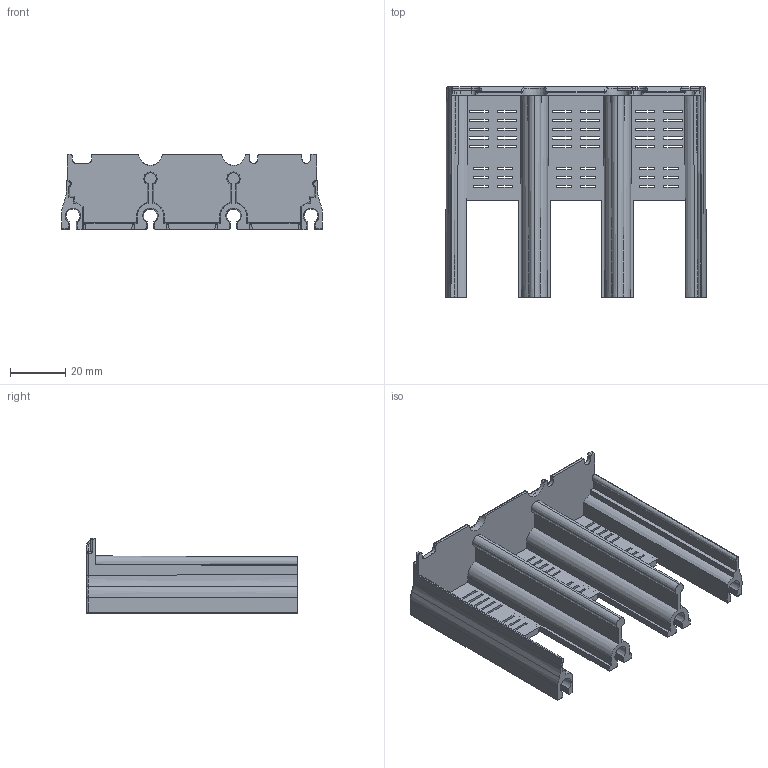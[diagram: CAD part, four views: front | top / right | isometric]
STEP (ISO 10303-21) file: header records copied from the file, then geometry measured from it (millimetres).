
FILE_DESCRIPTION (( 'STEP AP203' ), '1' );
FILE_NAME ('M5-160-3P-傷赽欶.STEP', '2024-09-20T08:22:01', ( 'A' ), ( '' ), 'SwSTEP 2.0', 'SolidWorks 2018', '' );
FILE_SCHEMA (( 'CONFIG_CONTROL_DESIGN' ));
Length unit declared in the file: millimetre
Products named in the file (1): M5-160-3P-傷赽欶車__“___
Bounding box: 94.16 x 76 x 27.3 mm (x, y, z)
Volume: 31464.8 mm3; surface area: 31369.9 mm2
Topology: 1 solids, 1 shells, 417 faces, 1182 edges, 763 vertices
Faces by surface type: plane 295, cylinder 53, cone 35, bspline 20, sphere 8, torus 6
Entity records: 13979 total; most frequent: CARTESIAN_POINT 3295, ORIENTED_EDGE 2356, DIRECTION 1928, EDGE_CURVE 1178, VECTOR 910, LINE 910, VERTEX_POINT 763, EDGE_LOOP 513
